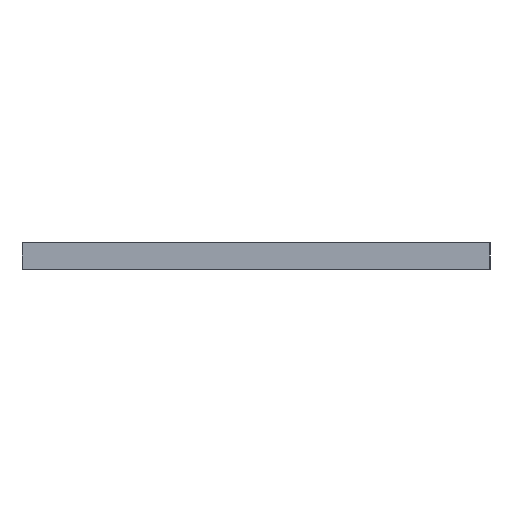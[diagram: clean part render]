
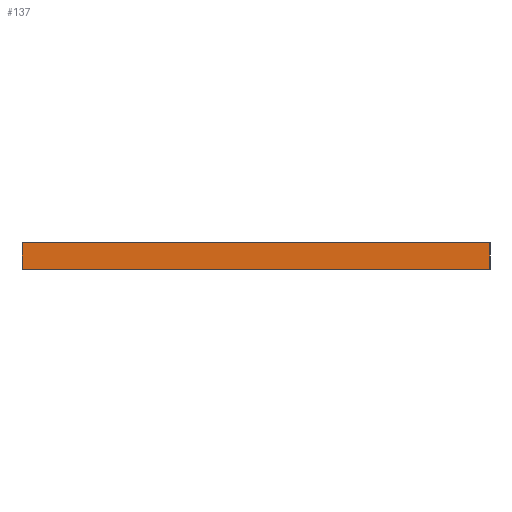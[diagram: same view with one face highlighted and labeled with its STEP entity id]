
A CAD part, left-side view. The second image highlights one B-rep face of the part: STEP entity #137.
In plain terms, the highlighted planar face has unit normal (-1, 0, 0).
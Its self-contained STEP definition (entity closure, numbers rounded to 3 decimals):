
#21 = EDGE_CURVE('',#22,#24,#26,.T.);
#22 = VERTEX_POINT('',#23);
#23 = CARTESIAN_POINT('',(0.,0.,0.));
#24 = VERTEX_POINT('',#25);
#25 = CARTESIAN_POINT('',(0.,0.,18.));
#26 = SURFACE_CURVE('',#27,(#31,#43),.PCURVE_S1.);
#27 = LINE('',#28,#29);
#28 = CARTESIAN_POINT('',(0.,0.,0.));
#29 = VECTOR('',#30,1.);
#30 = DIRECTION('',(0.,0.,1.));
#31 = PCURVE('',#32,#37);
#32 = PLANE('',#33);
#33 = AXIS2_PLACEMENT_3D('',#34,#35,#36);
#34 = CARTESIAN_POINT('',(0.,0.,0.));
#35 = DIRECTION('',(0.,1.,0.));
#36 = DIRECTION('',(1.,0.,0.));
#37 = DEFINITIONAL_REPRESENTATION('',(#38),#42);
#38 = LINE('',#39,#40);
#39 = CARTESIAN_POINT('',(0.,0.));
#40 = VECTOR('',#41,1.);
#41 = DIRECTION('',(0.,-1.));
#42 = ( GEOMETRIC_REPRESENTATION_CONTEXT(2) 
PARAMETRIC_REPRESENTATION_CONTEXT() REPRESENTATION_CONTEXT('2D SPACE',''
  ) );
#43 = PCURVE('',#44,#49);
#44 = PLANE('',#45);
#45 = AXIS2_PLACEMENT_3D('',#46,#47,#48);
#46 = CARTESIAN_POINT('',(0.,323.018,0.));
#47 = DIRECTION('',(1.,0.,-0.));
#48 = DIRECTION('',(0.,-1.,0.));
#49 = DEFINITIONAL_REPRESENTATION('',(#50),#54);
#50 = LINE('',#51,#52);
#51 = CARTESIAN_POINT('',(323.018,0.));
#52 = VECTOR('',#53,1.);
#53 = DIRECTION('',(0.,-1.));
#54 = ( GEOMETRIC_REPRESENTATION_CONTEXT(2) 
PARAMETRIC_REPRESENTATION_CONTEXT() REPRESENTATION_CONTEXT('2D SPACE',''
  ) );
#72 = PLANE('',#73);
#73 = AXIS2_PLACEMENT_3D('',#74,#75,#76);
#74 = CARTESIAN_POINT('',(600.,161.509,18.));
#75 = DIRECTION('',(0.,0.,1.));
#76 = DIRECTION('',(1.,0.,-0.));
#126 = PLANE('',#127);
#127 = AXIS2_PLACEMENT_3D('',#128,#129,#130);
#128 = CARTESIAN_POINT('',(600.,161.509,0.));
#129 = DIRECTION('',(0.,0.,1.));
#130 = DIRECTION('',(1.,0.,-0.));
#137 = ADVANCED_FACE('',(#138),#44,.F.);
#138 = FACE_BOUND('',#139,.F.);
#139 = EDGE_LOOP('',(#140,#170,#191,#192));
#140 = ORIENTED_EDGE('',*,*,#141,.T.);
#141 = EDGE_CURVE('',#142,#144,#146,.T.);
#142 = VERTEX_POINT('',#143);
#143 = CARTESIAN_POINT('',(0.,323.018,0.));
#144 = VERTEX_POINT('',#145);
#145 = CARTESIAN_POINT('',(0.,323.018,18.));
#146 = SURFACE_CURVE('',#147,(#151,#158),.PCURVE_S1.);
#147 = LINE('',#148,#149);
#148 = CARTESIAN_POINT('',(0.,323.018,0.));
#149 = VECTOR('',#150,1.);
#150 = DIRECTION('',(0.,0.,1.));
#151 = PCURVE('',#44,#152);
#152 = DEFINITIONAL_REPRESENTATION('',(#153),#157);
#153 = LINE('',#154,#155);
#154 = CARTESIAN_POINT('',(0.,0.));
#155 = VECTOR('',#156,1.);
#156 = DIRECTION('',(0.,-1.));
#157 = ( GEOMETRIC_REPRESENTATION_CONTEXT(2) 
PARAMETRIC_REPRESENTATION_CONTEXT() REPRESENTATION_CONTEXT('2D SPACE',''
  ) );
#158 = PCURVE('',#159,#164);
#159 = PLANE('',#160);
#160 = AXIS2_PLACEMENT_3D('',#161,#162,#163);
#161 = CARTESIAN_POINT('',(1200.,323.018,0.));
#162 = DIRECTION('',(0.,-1.,0.));
#163 = DIRECTION('',(-1.,0.,0.));
#164 = DEFINITIONAL_REPRESENTATION('',(#165),#169);
#165 = LINE('',#166,#167);
#166 = CARTESIAN_POINT('',(1200.,0.));
#167 = VECTOR('',#168,1.);
#168 = DIRECTION('',(0.,-1.));
#169 = ( GEOMETRIC_REPRESENTATION_CONTEXT(2) 
PARAMETRIC_REPRESENTATION_CONTEXT() REPRESENTATION_CONTEXT('2D SPACE',''
  ) );
#170 = ORIENTED_EDGE('',*,*,#171,.T.);
#171 = EDGE_CURVE('',#144,#24,#172,.T.);
#172 = SURFACE_CURVE('',#173,(#177,#184),.PCURVE_S1.);
#173 = LINE('',#174,#175);
#174 = CARTESIAN_POINT('',(0.,323.018,18.));
#175 = VECTOR('',#176,1.);
#176 = DIRECTION('',(0.,-1.,0.));
#177 = PCURVE('',#44,#178);
#178 = DEFINITIONAL_REPRESENTATION('',(#179),#183);
#179 = LINE('',#180,#181);
#180 = CARTESIAN_POINT('',(0.,-18.));
#181 = VECTOR('',#182,1.);
#182 = DIRECTION('',(1.,0.));
#183 = ( GEOMETRIC_REPRESENTATION_CONTEXT(2) 
PARAMETRIC_REPRESENTATION_CONTEXT() REPRESENTATION_CONTEXT('2D SPACE',''
  ) );
#184 = PCURVE('',#72,#185);
#185 = DEFINITIONAL_REPRESENTATION('',(#186),#190);
#186 = LINE('',#187,#188);
#187 = CARTESIAN_POINT('',(-600.,161.509));
#188 = VECTOR('',#189,1.);
#189 = DIRECTION('',(0.,-1.));
#190 = ( GEOMETRIC_REPRESENTATION_CONTEXT(2) 
PARAMETRIC_REPRESENTATION_CONTEXT() REPRESENTATION_CONTEXT('2D SPACE',''
  ) );
#191 = ORIENTED_EDGE('',*,*,#21,.F.);
#192 = ORIENTED_EDGE('',*,*,#193,.F.);
#193 = EDGE_CURVE('',#142,#22,#194,.T.);
#194 = SURFACE_CURVE('',#195,(#199,#206),.PCURVE_S1.);
#195 = LINE('',#196,#197);
#196 = CARTESIAN_POINT('',(0.,323.018,0.));
#197 = VECTOR('',#198,1.);
#198 = DIRECTION('',(0.,-1.,0.));
#199 = PCURVE('',#44,#200);
#200 = DEFINITIONAL_REPRESENTATION('',(#201),#205);
#201 = LINE('',#202,#203);
#202 = CARTESIAN_POINT('',(0.,0.));
#203 = VECTOR('',#204,1.);
#204 = DIRECTION('',(1.,0.));
#205 = ( GEOMETRIC_REPRESENTATION_CONTEXT(2) 
PARAMETRIC_REPRESENTATION_CONTEXT() REPRESENTATION_CONTEXT('2D SPACE',''
  ) );
#206 = PCURVE('',#126,#207);
#207 = DEFINITIONAL_REPRESENTATION('',(#208),#212);
#208 = LINE('',#209,#210);
#209 = CARTESIAN_POINT('',(-600.,161.509));
#210 = VECTOR('',#211,1.);
#211 = DIRECTION('',(0.,-1.));
#212 = ( GEOMETRIC_REPRESENTATION_CONTEXT(2) 
PARAMETRIC_REPRESENTATION_CONTEXT() REPRESENTATION_CONTEXT('2D SPACE',''
  ) );
